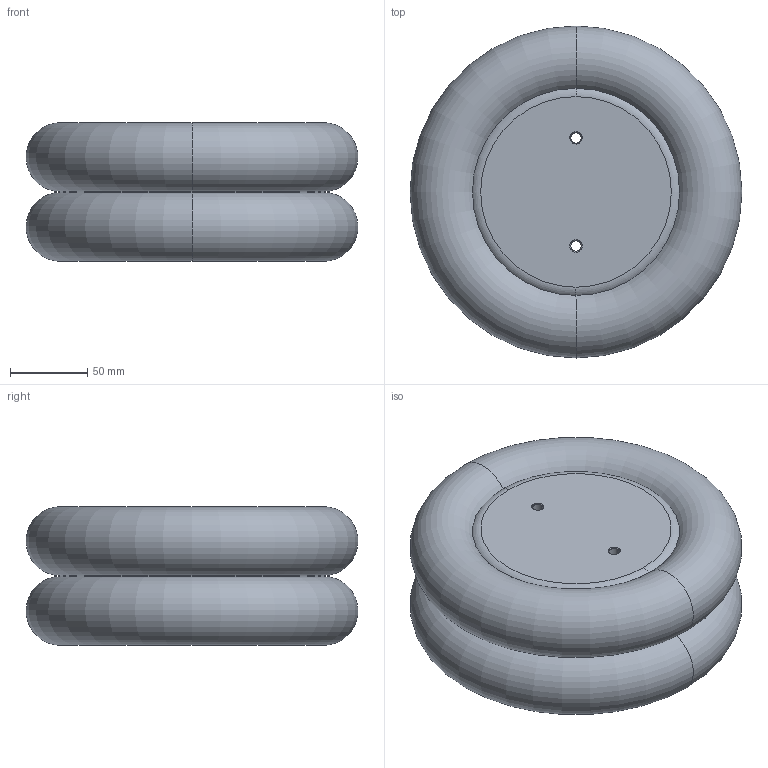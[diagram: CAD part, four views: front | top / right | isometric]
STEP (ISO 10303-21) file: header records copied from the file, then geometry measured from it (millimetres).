
FILE_DESCRIPTION((''),'2;1');
FILE_NAME('0822419042_MIN','2023-08-03T10:44:33',('VAU3HC'),(''),'CREO PARAMETRIC BY PTC INC, 2020044','CREO PARAMETRIC BY PTC INC, 2020044','');
FILE_SCHEMA(('CONFIG_CONTROL_DESIGN','SHAPE_APPEARANCE_LAYERS_GROUPS'));
Length unit declared in the file: millimetre
Products named in the file (1): 0822419042_MIN
Bounding box: 214.97 x 214.97 x 89.53 mm (x, y, z)
Volume: 2462860.7 mm3; surface area: 160618.2 mm2
Topology: 1 solids, 1 shells, 36 faces, 78 edges, 46 vertices
Faces by surface type: cylinder 14, cone 10, torus 8, plane 4
Entity records: 1716 total; most frequent: DIRECTION 204, CARTESIAN_POINT 160, ORIENTED_EDGE 156, PRESENTATION_STYLE_ASSIGNMENT 115, AXIS2_PLACEMENT_3D 90, STYLED_ITEM 83, CURVE_STYLE 78, EDGE_CURVE 78
